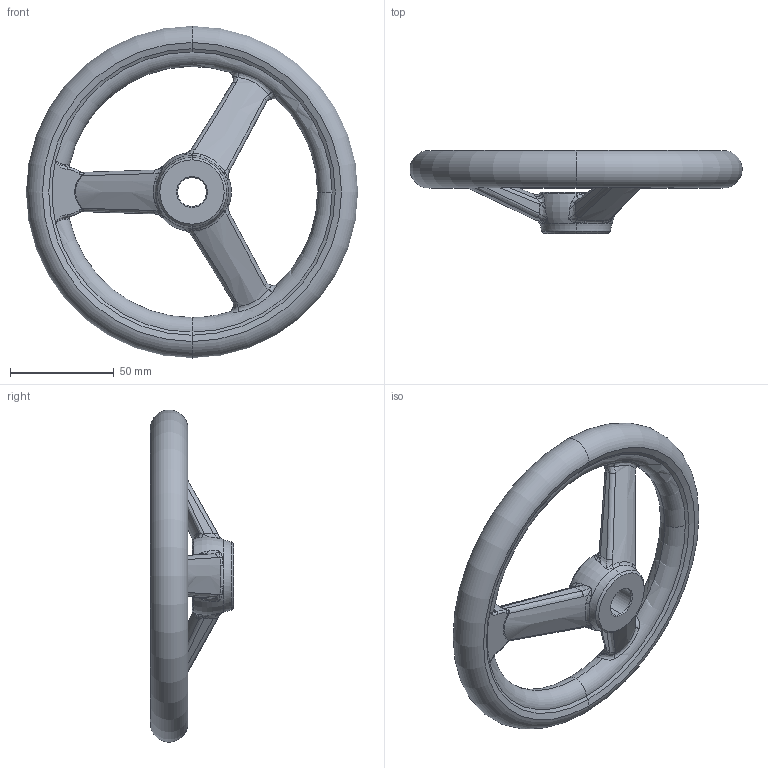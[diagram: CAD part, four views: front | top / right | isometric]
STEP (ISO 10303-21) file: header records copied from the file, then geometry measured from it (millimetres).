
FILE_DESCRIPTION (( 'STEP AP203' ), '1' );
FILE_NAME ('din950_a4_160x14.step', '2010-03-23T09:56:53', ( '_' ), ( '_' ), 'SwSTEP 2.0', 'SolidWorks 2010', '' );
FILE_SCHEMA (( 'CONFIG_CONTROL_DESIGN' ));
Length unit declared in the file: millimetre
Products named in the file (1): din950_a4_160x14
Bounding box: 159.93 x 40 x 159.93 mm (x, y, z)
Volume: 158766.2 mm3; surface area: 36733 mm2
Topology: 1 solids, 1 shells, 200 faces, 489 edges, 261 vertices
Faces by surface type: bspline 142, torus 24, cone 17, plane 10, cylinder 7
Entity records: 25325 total; most frequent: CARTESIAN_POINT 21569, ORIENTED_EDGE 930, DIRECTION 495, EDGE_CURVE 465, VERTEX_POINT 261, B_SPLINE_CURVE_WITH_KNOTS 261, AXIS2_PLACEMENT_3D 236, EDGE_LOOP 202
